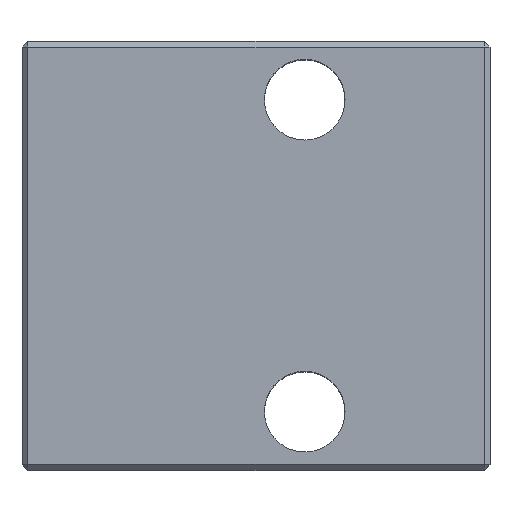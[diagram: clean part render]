
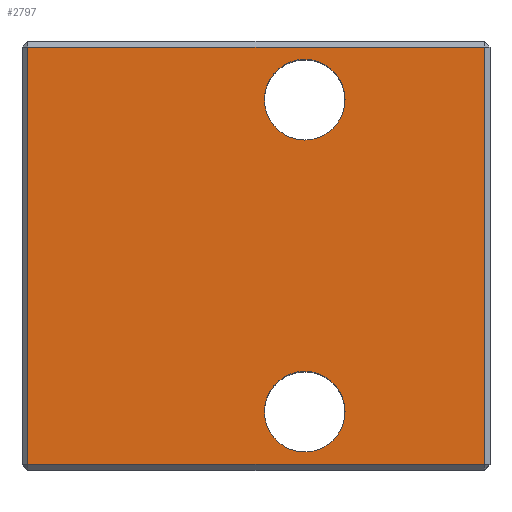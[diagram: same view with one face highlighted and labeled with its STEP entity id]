
A CAD part, top view. The second image highlights one B-rep face of the part: STEP entity #2797.
In plain terms, the highlighted planar face has unit normal (0, 0, 1).
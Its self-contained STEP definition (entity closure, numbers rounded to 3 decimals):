
#677=CARTESIAN_POINT('',(-4.207,3.642,18.));
#678=DIRECTION('',(0.,0.,-1.));
#679=DIRECTION('',(-1.,0.,0.));
#680=AXIS2_PLACEMENT_3D('',#677,#678,#679);
#685=CARTESIAN_POINT('',(-4.207,3.642,18.));
#686=DIRECTION('',(0.,0.,-1.));
#687=DIRECTION('',(1.,0.,0.));
#688=AXIS2_PLACEMENT_3D('',#685,#686,#687);
#693=CARTESIAN_POINT('',(-4.207,-12.358,18.));
#694=DIRECTION('',(0.,0.,-1.));
#695=DIRECTION('',(-1.,0.,0.));
#696=AXIS2_PLACEMENT_3D('',#693,#694,#695);
#701=CARTESIAN_POINT('',(-4.207,-12.358,18.));
#702=DIRECTION('',(0.,0.,-1.));
#703=DIRECTION('',(1.,0.,0.));
#704=AXIS2_PLACEMENT_3D('',#701,#702,#703);
#874=DIRECTION('',(-1.,0.,0.));
#875=VECTOR('',#874,23.4);
#876=CARTESIAN_POINT('',(4.993,-15.058,18.));
#877=LINE('',#876,#875);
#909=DIRECTION('',(0.,1.,0.));
#910=VECTOR('',#909,21.4);
#911=CARTESIAN_POINT('',(-18.407,-15.058,18.));
#912=LINE('',#911,#910);
#1900=DIRECTION('',(0.,-1.,0.));
#1901=VECTOR('',#1900,21.4);
#1902=CARTESIAN_POINT('',(4.993,6.342,18.));
#1903=LINE('',#1902,#1901);
#2078=DIRECTION('',(1.,0.,0.));
#2079=VECTOR('',#2078,23.4);
#2080=CARTESIAN_POINT('',(-18.407,6.342,18.));
#2081=LINE('',#2080,#2079);
#2347=CARTESIAN_POINT('',(4.993,6.342,18.));
#2348=VERTEX_POINT('',#2347);
#2385=CARTESIAN_POINT('',(-18.407,6.342,18.));
#2386=VERTEX_POINT('',#2385);
#2387=CARTESIAN_POINT('',(4.993,-15.058,18.));
#2388=VERTEX_POINT('',#2387);
#2403=CARTESIAN_POINT('',(-18.407,-15.058,18.));
#2404=VERTEX_POINT('',#2403);
#2472=CARTESIAN_POINT('',(-6.274,3.642,18.));
#2474=VERTEX_POINT('',#2472);
#2476=CARTESIAN_POINT('',(-2.14,3.642,18.));
#2478=VERTEX_POINT('',#2476);
#2486=CARTESIAN_POINT('',(-6.274,-12.358,18.));
#2488=VERTEX_POINT('',#2486);
#2490=CARTESIAN_POINT('',(-2.14,-12.358,18.));
#2492=VERTEX_POINT('',#2490);
#2773=CARTESIAN_POINT('',(-6.707,-4.358,18.));
#2774=DIRECTION('',(0.,0.,1.));
#2775=DIRECTION('',(1.,0.,0.));
#2776=AXIS2_PLACEMENT_3D('',#2773,#2774,#2775);
#2777=PLANE('',#2776);
#2779=ORIENTED_EDGE('',*,*,#2778,.T.);
#2781=ORIENTED_EDGE('',*,*,#2780,.T.);
#2783=ORIENTED_EDGE('',*,*,#2782,.T.);
#2785=ORIENTED_EDGE('',*,*,#2784,.T.);
#2786=EDGE_LOOP('',(#2779,#2781,#2783,#2785));
#2787=FACE_OUTER_BOUND('',#2786,.F.);
#2788=ORIENTED_EDGE('',*,*,#2712,.F.);
#2789=ORIENTED_EDGE('',*,*,#2738,.F.);
#2790=EDGE_LOOP('',(#2788,#2789));
#2791=FACE_BOUND('',#2790,.F.);
#2793=ORIENTED_EDGE('',*,*,#2792,.F.);
#2794=ORIENTED_EDGE('',*,*,#2591,.F.);
#2795=EDGE_LOOP('',(#2793,#2794));
#2796=FACE_BOUND('',#2795,.F.);
#681=CIRCLE('',#680,2.067);
#689=CIRCLE('',#688,2.067);
#697=CIRCLE('',#696,2.067);
#705=CIRCLE('',#704,2.067);
#2591=EDGE_CURVE('',#2478,#2474,#689,.T.);
#2712=EDGE_CURVE('',#2488,#2492,#697,.T.);
#2738=EDGE_CURVE('',#2492,#2488,#705,.T.);
#2778=EDGE_CURVE('',#2388,#2404,#877,.T.);
#2780=EDGE_CURVE('',#2404,#2386,#912,.T.);
#2782=EDGE_CURVE('',#2386,#2348,#2081,.T.);
#2784=EDGE_CURVE('',#2348,#2388,#1903,.T.);
#2792=EDGE_CURVE('',#2474,#2478,#681,.T.);
#2797=ADVANCED_FACE('',(#2787,#2791,#2796),#2777,.T.);
